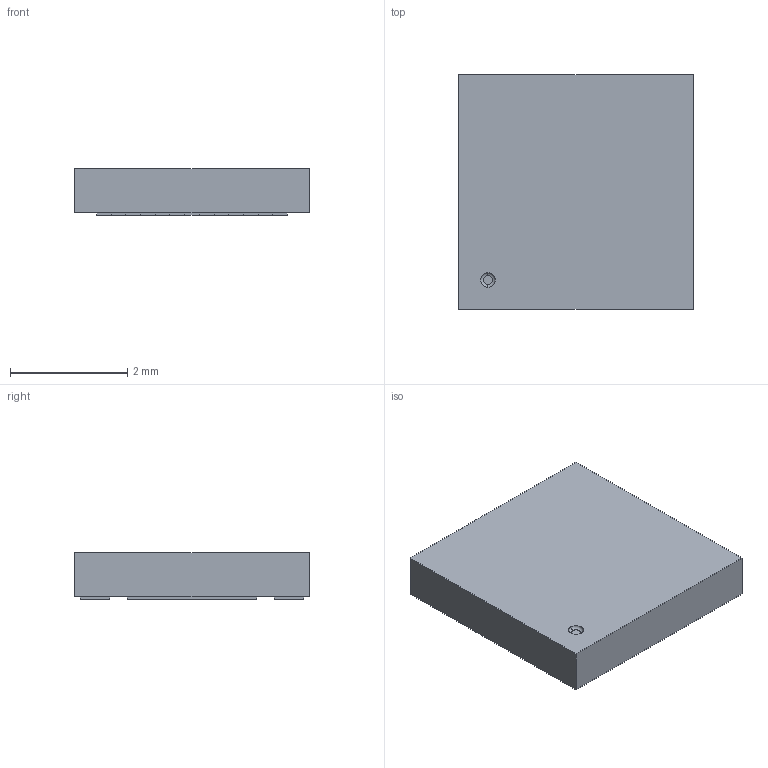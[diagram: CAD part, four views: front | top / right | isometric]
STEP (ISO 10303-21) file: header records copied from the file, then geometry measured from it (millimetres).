
FILE_DESCRIPTION (( 'STEP AP214' ), '1' );
FILE_NAME ( 'PSON15P50_400X400X80L50X25T300X220.STEP', '2021-10-06T06:48:57', ( '' ), ( '' ), '', '©2017 PCB Libraries, Inc.', '' );
FILE_SCHEMA (( 'AUTOMOTIVE_DESIGN' ));
Length unit declared in the file: millimetre
Products named in the file (1): PSON15P50_400X400X80L50X25T300X220
Bounding box: 4 x 4 x 0.8 mm (x, y, z)
Volume: 12.4 mm3; surface area: 62.3 mm2
Topology: 16 solids, 16 shells, 99 faces, 198 edges, 132 vertices
Faces by surface type: plane 97, torus 2
Entity records: 2981 total; most frequent: CARTESIAN_POINT 430, DIRECTION 404, ORIENTED_EDGE 396, EDGE_CURVE 198, VECTOR 192, LINE 192, VERTEX_POINT 132, STYLED_ITEM 116
